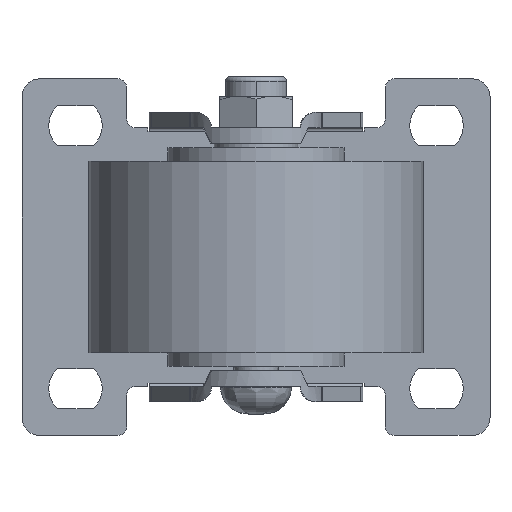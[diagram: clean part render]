
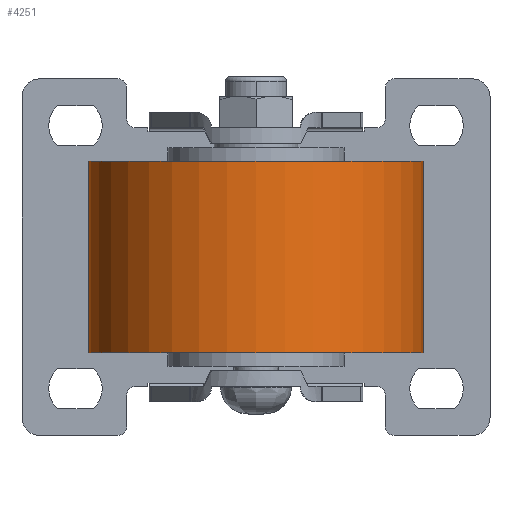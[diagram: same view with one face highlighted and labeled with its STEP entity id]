
A CAD part, front view. The second image highlights one B-rep face of the part: STEP entity #4251.
In plain terms, the highlighted cylindrical face has radius 37.5 mm (diameter 75 mm), a partial arc.
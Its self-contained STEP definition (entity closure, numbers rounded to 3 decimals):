
#358 = ORIENTED_EDGE ( 'NONE', *, *, #2378, .F. ) ;
#466 = LINE ( 'NONE', #1028, #1767 ) ;
#1028 = CARTESIAN_POINT ( 'NONE',  ( -37.5, 34.73, -41.822 ) ) ;
#1072 = CARTESIAN_POINT ( 'NONE',  ( 37.5, 34.73, -84.822 ) ) ;
#1164 = DIRECTION ( 'NONE',  ( 0., 0., -1. ) ) ;
#1174 = VECTOR ( 'NONE', #2450, 1000. ) ;
#1503 = ORIENTED_EDGE ( 'NONE', *, *, #2209, .F. ) ;
#1584 = DIRECTION ( 'NONE',  ( 0., 0., -1. ) ) ;
#1618 = FACE_OUTER_BOUND ( 'NONE', #5066, .T. ) ;
#1698 = CIRCLE ( 'NONE', #5028, 37.5 ) ;
#1767 = VECTOR ( 'NONE', #1584, 1000. ) ;
#2209 = EDGE_CURVE ( 'NONE', #3310, #5529, #1698, .T. ) ;
#2378 = EDGE_CURVE ( 'NONE', #5529, #6399, #7068, .T. ) ;
#2450 = DIRECTION ( 'NONE',  ( 0., 0., -1. ) ) ;
#2874 = VERTEX_POINT ( 'NONE', #5139 ) ;
#2889 = CARTESIAN_POINT ( 'NONE',  ( 0., 34.73, -41.822 ) ) ;
#3269 = EDGE_CURVE ( 'NONE', #3310, #2874, #466, .T. ) ;
#3284 = CARTESIAN_POINT ( 'NONE',  ( -37.5, 34.73, -41.822 ) ) ;
#3310 = VERTEX_POINT ( 'NONE', #3284 ) ;
#3388 = DIRECTION ( 'NONE',  ( -1., 0., 0. ) ) ;
#3454 = DIRECTION ( 'NONE',  ( -1., 0., 0. ) ) ;
#4098 = AXIS2_PLACEMENT_3D ( 'NONE', #4509, #1164, #5057 ) ;
#4251 = ADVANCED_FACE ( 'NONE', ( #1618 ), #5672, .T. ) ;
#4509 = CARTESIAN_POINT ( 'NONE',  ( 0., 34.73, -84.822 ) ) ;
#4522 = DIRECTION ( 'NONE',  ( 0., 0., -1. ) ) ;
#4574 = AXIS2_PLACEMENT_3D ( 'NONE', #5048, #4522, #3388 ) ;
#4588 = ORIENTED_EDGE ( 'NONE', *, *, #3269, .T. ) ;
#5028 = AXIS2_PLACEMENT_3D ( 'NONE', #2889, #6759, #3454 ) ;
#5048 = CARTESIAN_POINT ( 'NONE',  ( 0., 34.73, -41.822 ) ) ;
#5057 = DIRECTION ( 'NONE',  ( -1., 0., 0. ) ) ;
#5066 = EDGE_LOOP ( 'NONE', ( #358, #1503, #4588, #5325 ) ) ;
#5139 = CARTESIAN_POINT ( 'NONE',  ( -37.5, 34.73, -84.822 ) ) ;
#5224 = CARTESIAN_POINT ( 'NONE',  ( 37.5, 34.73, -41.822 ) ) ;
#5325 = ORIENTED_EDGE ( 'NONE', *, *, #6506, .F. ) ;
#5529 = VERTEX_POINT ( 'NONE', #5224 ) ;
#5672 = CYLINDRICAL_SURFACE ( 'NONE', #4574, 37.5 ) ;
#6399 = VERTEX_POINT ( 'NONE', #1072 ) ;
#6491 = CIRCLE ( 'NONE', #4098, 37.5 ) ;
#6506 = EDGE_CURVE ( 'NONE', #6399, #2874, #6491, .T. ) ;
#6759 = DIRECTION ( 'NONE',  ( 0., 0., 1. ) ) ;
#6877 = CARTESIAN_POINT ( 'NONE',  ( 37.5, 34.73, -41.822 ) ) ;
#7068 = LINE ( 'NONE', #6877, #1174 ) ;
